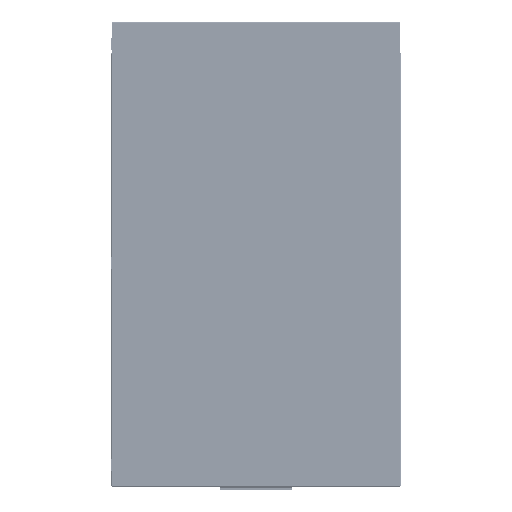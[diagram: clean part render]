
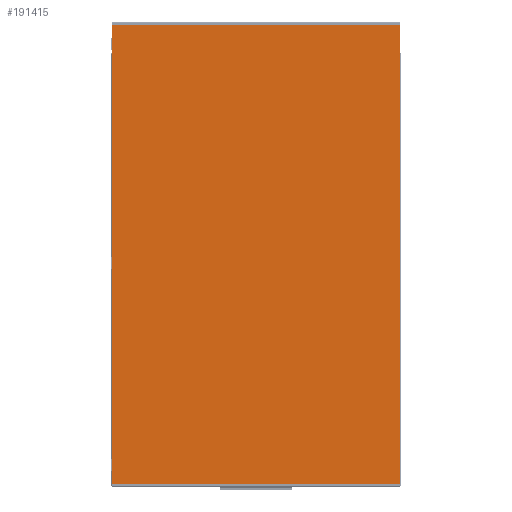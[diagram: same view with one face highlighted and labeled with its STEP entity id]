
A CAD part, front view. The second image highlights one B-rep face of the part: STEP entity #191415.
In plain terms, the highlighted planar face has unit normal (0, -1, 0).
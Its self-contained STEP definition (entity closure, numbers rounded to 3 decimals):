
#2603 = DIRECTION ( 'NONE',  ( 1., 0., 0. ) ) ;
#24614 = VERTEX_POINT ( 'NONE', #124865 ) ;
#27104 = LINE ( 'NONE', #105562, #109828 ) ;
#28340 = DIRECTION ( 'NONE',  ( -1., 0., 0. ) ) ;
#49258 = ORIENTED_EDGE ( 'NONE', *, *, #204677, .T. ) ;
#53048 = ORIENTED_EDGE ( 'NONE', *, *, #230419, .T. ) ;
#71379 = CARTESIAN_POINT ( 'NONE',  ( -298.5, -132.705, 958.239 ) ) ;
#74045 = DIRECTION ( 'NONE',  ( 0., 0., -1. ) ) ;
#78083 = CARTESIAN_POINT ( 'NONE',  ( -298.5, -132.705, -0.761 ) ) ;
#99043 = VERTEX_POINT ( 'NONE', #139560 ) ;
#102521 = VERTEX_POINT ( 'NONE', #78083 ) ;
#105562 = CARTESIAN_POINT ( 'NONE',  ( 298.5, -132.705, 958.239 ) ) ;
#109828 = VECTOR ( 'NONE', #28340, 1000. ) ;
#121567 = CARTESIAN_POINT ( 'NONE',  ( 298.5, -132.705, -0.761 ) ) ;
#122686 = FACE_OUTER_BOUND ( 'NONE', #168298, .T. ) ;
#124865 = CARTESIAN_POINT ( 'NONE',  ( -298.5, -132.705, 958.239 ) ) ;
#127871 = EDGE_CURVE ( 'NONE', #99043, #24614, #27104, .T. ) ;
#139560 = CARTESIAN_POINT ( 'NONE',  ( 298.5, -132.705, 958.239 ) ) ;
#142053 = VECTOR ( 'NONE', #2603, 1000. ) ;
#149972 = CARTESIAN_POINT ( 'NONE',  ( -298.5, -132.705, -0.761 ) ) ;
#151391 = CARTESIAN_POINT ( 'NONE',  ( 0., -132.705, 478.739 ) ) ;
#152678 = CARTESIAN_POINT ( 'NONE',  ( 298.5, -132.705, -0.761 ) ) ;
#158739 = ORIENTED_EDGE ( 'NONE', *, *, #222990, .T. ) ;
#168298 = EDGE_LOOP ( 'NONE', ( #53048, #49258, #158739, #248936 ) ) ;
#173673 = VECTOR ( 'NONE', #231307, 1000. ) ;
#176153 = LINE ( 'NONE', #149972, #142053 ) ;
#179774 = VERTEX_POINT ( 'NONE', #121567 ) ;
#183435 = PLANE ( 'NONE',  #238187 ) ;
#191415 = ADVANCED_FACE ( 'NONE', ( #122686 ), #183435, .T. ) ;
#204677 = EDGE_CURVE ( 'NONE', #102521, #179774, #176153, .T. ) ;
#211020 = DIRECTION ( 'NONE',  ( 0., -1., 0. ) ) ;
#215046 = VECTOR ( 'NONE', #245091, 1000. ) ;
#222990 = EDGE_CURVE ( 'NONE', #179774, #99043, #235008, .T. ) ;
#230419 = EDGE_CURVE ( 'NONE', #24614, #102521, #250077, .T. ) ;
#231307 = DIRECTION ( 'NONE',  ( 0., 0., 1. ) ) ;
#235008 = LINE ( 'NONE', #152678, #173673 ) ;
#238187 = AXIS2_PLACEMENT_3D ( 'NONE', #151391, #211020, #74045 ) ;
#245091 = DIRECTION ( 'NONE',  ( 0., 0., -1. ) ) ;
#248936 = ORIENTED_EDGE ( 'NONE', *, *, #127871, .T. ) ;
#250077 = LINE ( 'NONE', #71379, #215046 ) ;
